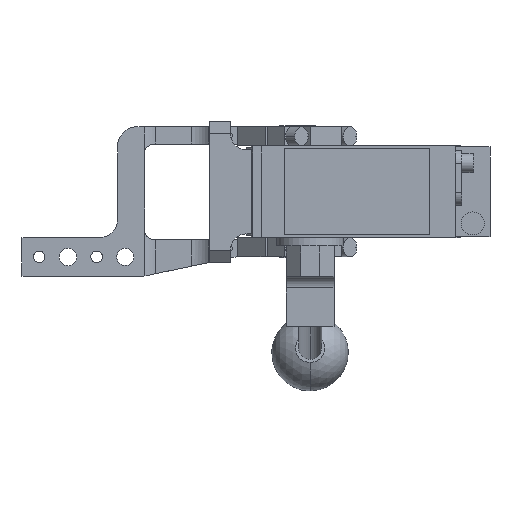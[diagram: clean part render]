
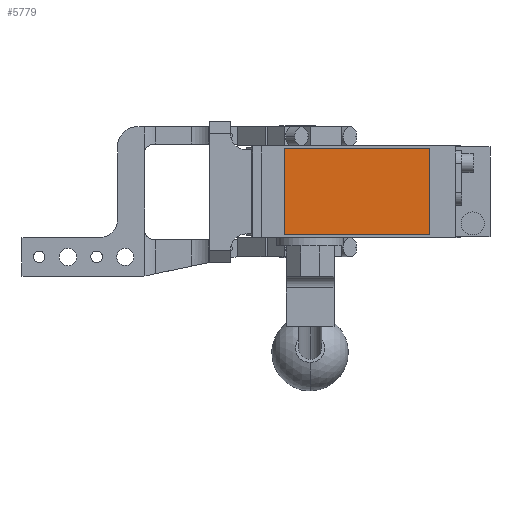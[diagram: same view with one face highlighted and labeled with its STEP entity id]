
A CAD part, front view. The second image highlights one B-rep face of the part: STEP entity #5779.
In plain terms, the highlighted planar face has unit normal (0, -1, 0).
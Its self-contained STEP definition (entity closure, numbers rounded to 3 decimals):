
#60 = EDGE_CURVE ( 'NONE', #13780, #12589, #15762, .T. ) ;
#1233 = LINE ( 'NONE', #11217, #6460 ) ;
#2486 = CARTESIAN_POINT ( 'NONE',  ( 69., -280.5, 22.5 ) ) ;
#2868 = LINE ( 'NONE', #3201, #6738 ) ;
#3201 = CARTESIAN_POINT ( 'NONE',  ( -7., -280.5, -22.5 ) ) ;
#3505 = VECTOR ( 'NONE', #10842, 1000. ) ;
#3582 = ORIENTED_EDGE ( 'NONE', *, *, #4572, .T. ) ;
#4425 = VECTOR ( 'NONE', #8375, 1000. ) ;
#4452 = CARTESIAN_POINT ( 'NONE',  ( -7., -280.5, 22.5 ) ) ;
#4496 = CARTESIAN_POINT ( 'NONE',  ( -7., -280.5, -22.5 ) ) ;
#4572 = EDGE_CURVE ( 'NONE', #8287, #9743, #8500, .T. ) ;
#4833 = EDGE_LOOP ( 'NONE', ( #5058, #14014, #3582, #6800 ) ) ;
#5058 = ORIENTED_EDGE ( 'NONE', *, *, #60, .T. ) ;
#5779 = ADVANCED_FACE ( 'NONE', ( #11586 ), #8026, .T. ) ;
#6460 = VECTOR ( 'NONE', #13489, 1000. ) ;
#6738 = VECTOR ( 'NONE', #11542, 1000. ) ;
#6800 = ORIENTED_EDGE ( 'NONE', *, *, #9846, .T. ) ;
#7772 = CARTESIAN_POINT ( 'NONE',  ( 0., -280.5, 0. ) ) ;
#8026 = PLANE ( 'NONE',  #9721 ) ;
#8109 = DIRECTION ( 'NONE',  ( 0., -1., 0. ) ) ;
#8287 = VERTEX_POINT ( 'NONE', #11871 ) ;
#8375 = DIRECTION ( 'NONE',  ( 0., 0., -1. ) ) ;
#8500 = LINE ( 'NONE', #2486, #3505 ) ;
#9721 = AXIS2_PLACEMENT_3D ( 'NONE', #7772, #8109, #14110 ) ;
#9743 = VERTEX_POINT ( 'NONE', #10812 ) ;
#9846 = EDGE_CURVE ( 'NONE', #9743, #13780, #1233, .T. ) ;
#10812 = CARTESIAN_POINT ( 'NONE',  ( 69., -280.5, 22.5 ) ) ;
#10842 = DIRECTION ( 'NONE',  ( 0., 0., 1. ) ) ;
#11217 = CARTESIAN_POINT ( 'NONE',  ( -7., -280.5, 22.5 ) ) ;
#11542 = DIRECTION ( 'NONE',  ( 1., 0., 0. ) ) ;
#11586 = FACE_OUTER_BOUND ( 'NONE', #4833, .T. ) ;
#11871 = CARTESIAN_POINT ( 'NONE',  ( 69., -280.5, -22.5 ) ) ;
#12022 = CARTESIAN_POINT ( 'NONE',  ( -7., -280.5, 22.5 ) ) ;
#12589 = VERTEX_POINT ( 'NONE', #4496 ) ;
#13489 = DIRECTION ( 'NONE',  ( -1., 0., 0. ) ) ;
#13780 = VERTEX_POINT ( 'NONE', #4452 ) ;
#14014 = ORIENTED_EDGE ( 'NONE', *, *, #15054, .T. ) ;
#14110 = DIRECTION ( 'NONE',  ( 0., 0., -1. ) ) ;
#15054 = EDGE_CURVE ( 'NONE', #12589, #8287, #2868, .T. ) ;
#15762 = LINE ( 'NONE', #12022, #4425 ) ;
